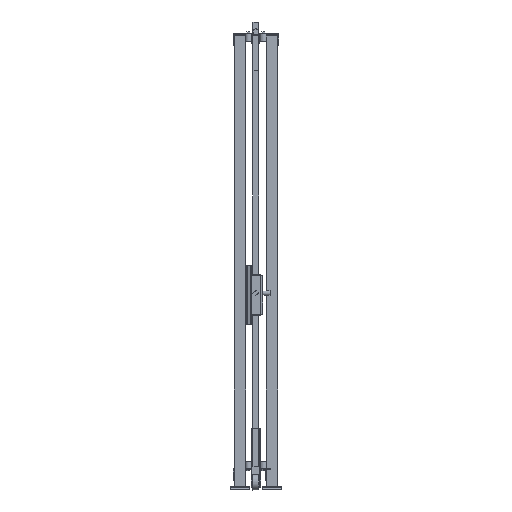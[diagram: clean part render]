
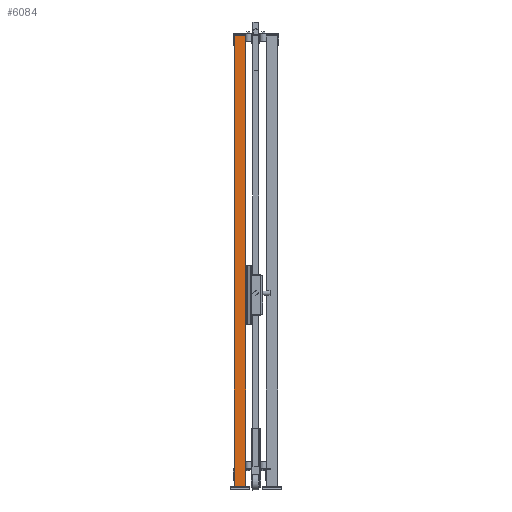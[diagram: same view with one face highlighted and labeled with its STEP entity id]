
A CAD part, left-side view. The second image highlights one B-rep face of the part: STEP entity #6084.
In plain terms, the highlighted planar face has unit normal (-1, 0, 0) as drawn and (0, 1, 0) by its records, which use the part's own axes.
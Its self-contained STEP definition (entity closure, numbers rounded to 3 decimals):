
#572=FACE_OUTER_BOUND('',#1062,.T.);
#1062=EDGE_LOOP('',(#3716,#3717,#3718,#3719));
#1608=VERTEX_POINT('',#13230);
#1609=VERTEX_POINT('',#13232);
#1611=VERTEX_POINT('',#13238);
#1614=VERTEX_POINT('',#13243);
#2414=EDGE_CURVE('',#1608,#1609,#7231,.T.);
#2420=EDGE_CURVE('',#1614,#1611,#7237,.T.);
#2423=EDGE_CURVE('',#1609,#1614,#7240,.T.);
#2424=EDGE_CURVE('',#1608,#1611,#7241,.T.);
#3716=ORIENTED_EDGE('',*,*,#2424,.T.);
#3717=ORIENTED_EDGE('',*,*,#2420,.F.);
#3718=ORIENTED_EDGE('',*,*,#2423,.F.);
#3719=ORIENTED_EDGE('',*,*,#2414,.F.);
#5664=PLANE('',#9242);
#6084=ADVANCED_FACE('',(#572),#5664,.F.);
#7231=LINE('',#13233,#8330);
#7237=LINE('',#13245,#8336);
#7240=LINE('',#13250,#8339);
#7241=LINE('',#13252,#8340);
#8330=VECTOR('',#10348,1.);
#8336=VECTOR('',#10356,1.);
#8339=VECTOR('',#10363,1.);
#8340=VECTOR('',#10366,1.);
#9242=AXIS2_PLACEMENT_3D('',#13251,#10364,#10365);
#10348=DIRECTION('',(-1.,0.,0.));
#10356=DIRECTION('',(1.,0.,0.));
#10363=DIRECTION('',(0.,0.,-1.));
#10364=DIRECTION('center_axis',(0.,-1.,0.));
#10365=DIRECTION('ref_axis',(0.,0.,-1.));
#10366=DIRECTION('',(0.,0.,-1.));
#13230=CARTESIAN_POINT('',(30.,30.,2320.));
#13232=CARTESIAN_POINT('',(-30.,30.,2320.));
#13233=CARTESIAN_POINT('',(0.,30.,2320.));
#13238=CARTESIAN_POINT('',(30.,30.,20.));
#13243=CARTESIAN_POINT('',(-30.,30.,20.));
#13245=CARTESIAN_POINT('',(0.,30.,20.));
#13250=CARTESIAN_POINT('',(-30.,30.,1170.));
#13251=CARTESIAN_POINT('Origin',(0.,30.,
1170.));
#13252=CARTESIAN_POINT('',(30.,30.,1170.));
